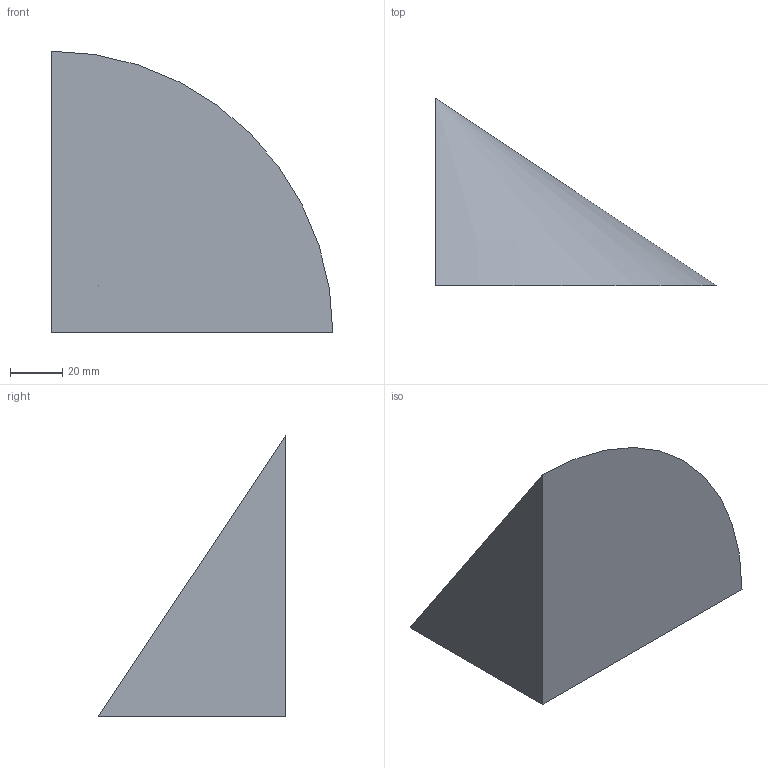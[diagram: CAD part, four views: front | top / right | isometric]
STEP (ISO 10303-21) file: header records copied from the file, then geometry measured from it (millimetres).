
FILE_DESCRIPTION(('CATIA V5 STEP Exchange'),'2;1');
FILE_NAME('C:\_Andres\UNIVERSIDAD\IQS\ASIGNATURAS\DAO\EXF\EXF-16172c\2inicio\dAndrea_Torrejon_Ej07_v8.stp','2017-03-05T21:18:11+00:00',('none'),('none'),'CATIA Version 5-6 Release 2014 SP1 HF18','CATIA V5 STEP AP203','none');
FILE_SCHEMA(('CONFIG_CONTROL_DESIGN'));
Length unit declared in the file: millimetre
Products named in the file (1): dAndrea_Torrejon_Ej07_v8
Bounding box: 108 x 72 x 108 mm (x, y, z)
Volume: 219861.2 mm3; surface area: 27946.9 mm2
Topology: 1 solids, 1 shells, 4 faces, 7 edges, 4 vertices
Faces by surface type: plane 3, cone 1
Entity records: 131 total; most frequent: CARTESIAN_POINT 15, DIRECTION 14, ORIENTED_EDGE 12, AXIS2_PLACEMENT_3D 6, EDGE_CURVE 6, VECTOR 5, LINE 5, ADVANCED_FACE 4
